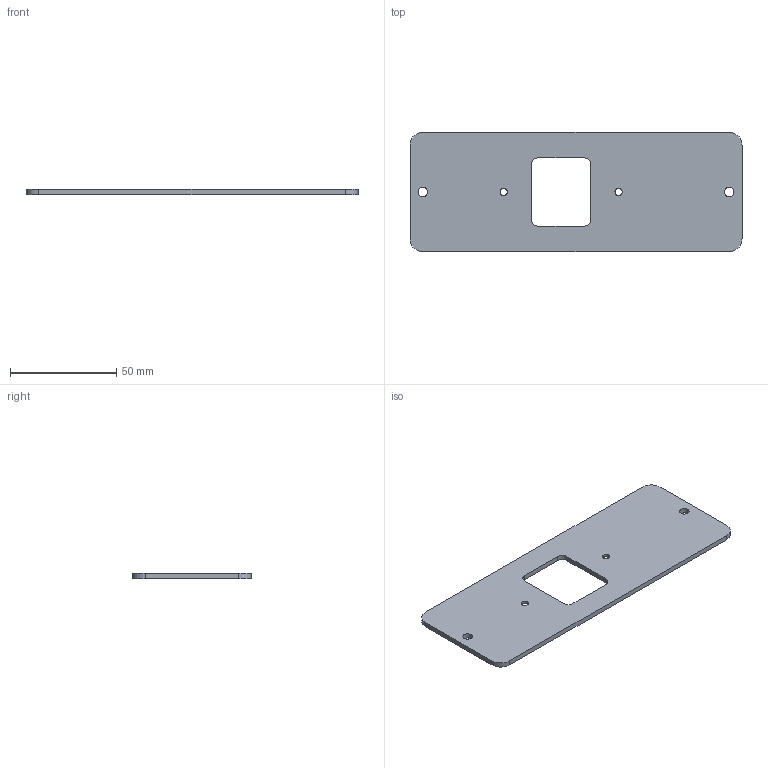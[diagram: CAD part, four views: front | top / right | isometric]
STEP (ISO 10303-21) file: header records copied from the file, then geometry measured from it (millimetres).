
FILE_DESCRIPTION(('FreeCAD Model'),'2;1');
FILE_NAME('Open CASCADE Shape Model','2026-10-24T11:59:22',('FreeCAD'),( 'FreeCAD'),'Open CASCADE STEP processor 7.8','FreeCAD','Unknown');
FILE_SCHEMA(('AUTOMOTIVE_DESIGN { 1 0 10303 214 1 1 1 1 }'));
Length unit declared in the file: millimetre
Products named in the file (1): Open CASCADE STEP translator 7.8 8
Bounding box: 156 x 56 x 2.4 mm (x, y, z)
Volume: 18617.1 mm3; surface area: 16910.2 mm2
Topology: 1 solids, 1 shells, 24 faces, 64 edges, 42 vertices
Faces by surface type: cylinder 12, plane 10, cone 2
Full cylindrical faces by diameter (mm): 3.4 x2, 4.4 x2
Entity records: 788 total; most frequent: DIRECTION 140, CARTESIAN_POINT 131, ORIENTED_EDGE 128, EDGE_CURVE 64, AXIS2_PLACEMENT_3D 51, VERTEX_POINT 42, LINE 38, VECTOR 38
